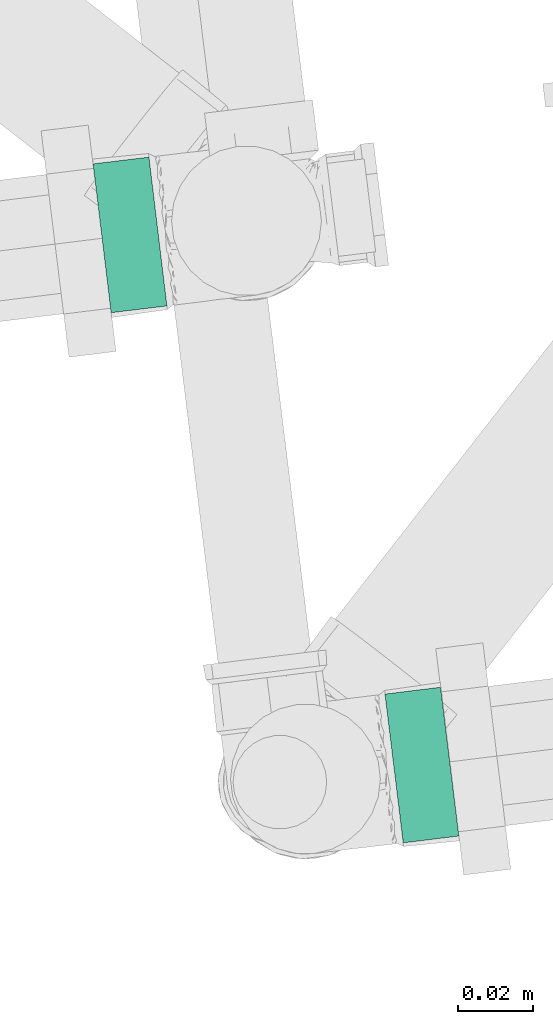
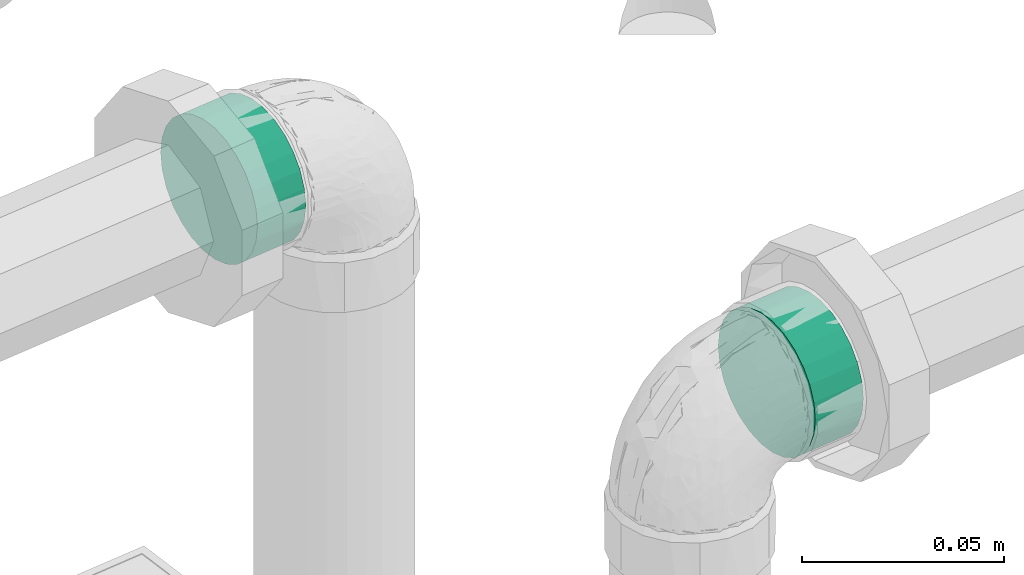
# One storey, part 67 of 97: 2 flow segments.
"""IFC2X3 building model written with IfcOpenShell, lengths in centimetres."""

from ifc_helpers import new_model, entity, si_unit, converted_unit, derived_unit, direction, frame, frame_2d, origin, origin_2d_with_axis, place, context, subcontext, project, spatial, circle, extrude, type_object, element, save


model = new_model("IFC2X3")

# Units and contexts
model_context = context("Model", 3, precision=0.001, world=origin(), true_north=direction((6.12303176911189e-17, 1.0)))
body_context = subcontext(model_context, "Body", "Model", "MODEL_VIEW")
ifc_project = project(units=[si_unit("LENGTHUNIT", "METRE", prefix="CENTI"), si_unit("AREAUNIT", "SQUARE_METRE"), si_unit("VOLUMEUNIT", "CUBIC_METRE"), converted_unit("PLANEANGLEUNIT", "DEGREE", entity("IfcRatioMeasure", 0.0174532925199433), si_unit("PLANEANGLEUNIT", "RADIAN"), dimensions=[0, 0, 0, 0, 0, 0, 0]), si_unit("MASSUNIT", "GRAM", prefix="KILO"), derived_unit("MASSDENSITYUNIT", [(si_unit("MASSUNIT", "GRAM", prefix="KILO"), 1), (si_unit("LENGTHUNIT", "METRE"), -3)]), derived_unit("MOMENTOFINERTIAUNIT", [(si_unit("LENGTHUNIT", "METRE"), 4)]), si_unit("TIMEUNIT", "SECOND"), si_unit("FREQUENCYUNIT", "HERTZ"), si_unit("THERMODYNAMICTEMPERATUREUNIT", "DEGREE_CELSIUS"), derived_unit("THERMALTRANSMITTANCEUNIT", [(si_unit("MASSUNIT", "GRAM", prefix="KILO"), 1), (si_unit("THERMODYNAMICTEMPERATUREUNIT", "KELVIN"), -1), (si_unit("TIMEUNIT", "SECOND"), -3)]), derived_unit("VOLUMETRICFLOWRATEUNIT", [(si_unit("LENGTHUNIT", "METRE"), 3), (si_unit("TIMEUNIT", "SECOND"), -1)]), si_unit("ELECTRICCURRENTUNIT", "AMPERE"), si_unit("ELECTRICVOLTAGEUNIT", "VOLT"), si_unit("POWERUNIT", "WATT"), si_unit("FORCEUNIT", "NEWTON", prefix="KILO"), si_unit("ILLUMINANCEUNIT", "LUX"), si_unit("LUMINOUSFLUXUNIT", "LUMEN"), si_unit("LUMINOUSINTENSITYUNIT", "CANDELA"), derived_unit("USERDEFINED", [(si_unit("MASSUNIT", "GRAM", prefix="KILO"), -1), (si_unit("LENGTHUNIT", "METRE"), -2), (si_unit("TIMEUNIT", "SECOND"), 3), (si_unit("LUMINOUSFLUXUNIT", "LUMEN"), 1)]), derived_unit("LINEARVELOCITYUNIT", [(si_unit("LENGTHUNIT", "METRE"), 1), (si_unit("TIMEUNIT", "SECOND"), -1)]), si_unit("PRESSUREUNIT", "PASCAL"), derived_unit("USERDEFINED", [(si_unit("LENGTHUNIT", "METRE"), -2), (si_unit("MASSUNIT", "GRAM", prefix="KILO"), 1), (si_unit("TIMEUNIT", "SECOND"), -2)]), derived_unit("LINEARFORCEUNIT", [(si_unit("MASSUNIT", "GRAM", prefix="KILO"), 1), (si_unit("LENGTHUNIT", "METRE"), 1), (si_unit("TIMEUNIT", "SECOND"), -2), (si_unit("LENGTHUNIT", "METRE"), -1)]), derived_unit("PLANARFORCEUNIT", [(si_unit("MASSUNIT", "GRAM", prefix="KILO"), 1), (si_unit("LENGTHUNIT", "METRE"), 1), (si_unit("TIMEUNIT", "SECOND"), -2), (si_unit("LENGTHUNIT", "METRE"), -2)])], contexts=[model_context])

# Site, building, storey
site_placement = place(None, origin())
site = spatial("IfcSite", under=ifc_project, at=site_placement, Name="Default", CompositionType="ELEMENT")
building_placement = place(site_placement, origin())
building = spatial("IfcBuilding", under=site, at=building_placement, Name="HIDROSSANITÁRIO", CompositionType="ELEMENT")
storey_placement = place(building_placement, frame((0.0, 0.0, -260.0)))
storey = spatial("IfcBuildingStorey", under=building, at=storey_placement, Name="TÉRREO-HID", CompositionType="ELEMENT", Elevation=-260.0)

# Flow segments
pipe_segment_type = type_object("IfcPipeSegmentType", Name="Tipos de tubos:Tubo - Esgoto - Série Normal", PredefinedType="NOTDEFINED")
flow_segment_1_placement = place(storey_placement, origin())
element("IfcFlowSegment", 1, at=flow_segment_1_placement, inside=storey, type_object=pipe_segment_type, Name="Tipos de tubos:Tubo - Esgoto - Série Normal", ObjectType="Tipos de tubos:Tubo - Esgoto - Série Normal", context=body_context, shape_type="SweptSolid", body=[
    extrude(circle(Radius=2.0, at=frame_2d((0.0, -2.70716782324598e-14), x_axis=(1.0, 0.0))), frame((-1666.26741610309, 2740.91345389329, 50.0040193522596), z_axis=(0.992511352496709, 0.122152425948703, 0.0), x_axis=(-0.122152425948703, 0.992511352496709, 0.0)), (0.0, 0.0, 1.0), 1.49470956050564),
])
flow_segment_2_placement = place(storey_placement, origin())
element("IfcFlowSegment", 2, at=flow_segment_2_placement, inside=storey, type_object=pipe_segment_type, Name="Tipos de tubos:Tubo - Esgoto - Série Normal", ObjectType="Tipos de tubos:Tubo - Esgoto - Série Normal", context=body_context, shape_type="SweptSolid", body=[
    extrude(circle(Radius=2.0, at=origin_2d_with_axis()), frame((-1674.05931930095, 2755.06185846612, 50.0), z_axis=(0.992776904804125, 0.119975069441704, 0.0), x_axis=(0.119975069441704, -0.992776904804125, 0.0)), (0.0, 0.0, 1.0), 1.50000000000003),
])

save(model, "model.ifc")
